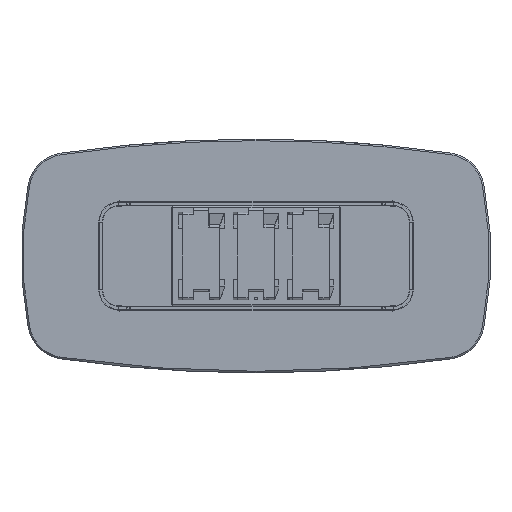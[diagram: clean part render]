
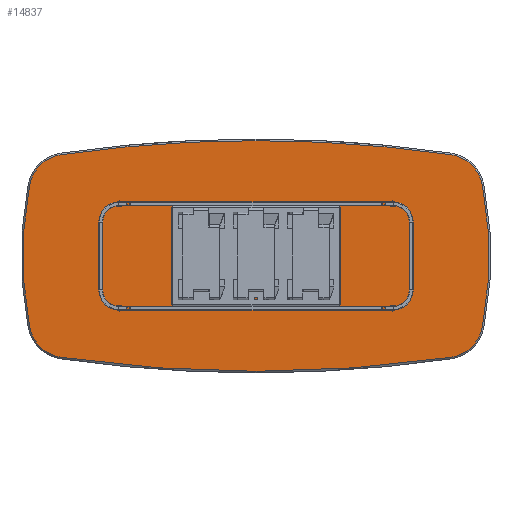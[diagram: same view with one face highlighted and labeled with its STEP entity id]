
A CAD part, front view. The second image highlights one B-rep face of the part: STEP entity #14837.
In plain terms, the highlighted planar face has unit normal (0, -1, 0).
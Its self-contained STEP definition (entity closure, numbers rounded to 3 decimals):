
#258 = DIRECTION ( 'NONE',  ( 0., 0., 1. ) ) ;
#646 = DIRECTION ( 'NONE',  ( 0., -1., 0. ) ) ;
#670 = ORIENTED_EDGE ( 'NONE', *, *, #3406, .T. ) ;
#852 = EDGE_CURVE ( 'NONE', #15227, #7037, #16452, .T. ) ;
#1535 = ORIENTED_EDGE ( 'NONE', *, *, #4718, .T. ) ;
#2172 = ORIENTED_EDGE ( 'NONE', *, *, #6445, .T. ) ;
#2653 = VERTEX_POINT ( 'NONE', #8960 ) ;
#3025 = CIRCLE ( 'NONE', #10614, 192. ) ;
#3292 = DIRECTION ( 'NONE',  ( 0., -1., 0. ) ) ;
#3363 = CARTESIAN_POINT ( 'NONE',  ( -1151.911, 0., 362.691 ) ) ;
#3406 = EDGE_CURVE ( 'NONE', #10563, #15227, #8538, .T. ) ;
#3511 = CARTESIAN_POINT ( 'NONE',  ( 990.878, 0., -515.919 ) ) ;
#3576 = DIRECTION ( 'NONE',  ( 0., 0., 1. ) ) ;
#3732 = VERTEX_POINT ( 'NONE', #3511 ) ;
#3764 = ORIENTED_EDGE ( 'NONE', *, *, #8789, .T. ) ;
#3807 = DIRECTION ( 'NONE',  ( 0., 0., 1. ) ) ;
#3987 = DIRECTION ( 'NONE',  ( 0., -1., 0. ) ) ;
#4063 = DIRECTION ( 'NONE',  ( 0., -1., 0. ) ) ;
#4412 = EDGE_CURVE ( 'NONE', #2653, #17202, #3025, .T. ) ;
#4714 = EDGE_LOOP ( 'NONE', ( #16150, #17699, #17284, #2172, #7404, #3764, #14658, #1535, #670 ) ) ;
#4718 = EDGE_CURVE ( 'NONE', #7975, #10563, #8882, .T. ) ;
#5331 = DIRECTION ( 'NONE',  ( 0., 0., 1. ) ) ;
#5489 = CIRCLE ( 'NONE', #7827, 6942. ) ;
#5846 = DIRECTION ( 'NONE',  ( 0., -1., 0. ) ) ;
#5956 = CIRCLE ( 'NONE', #8007, 1892. ) ;
#6017 = CIRCLE ( 'NONE', #9826, 6942. ) ;
#6361 = CARTESIAN_POINT ( 'NONE',  ( 1151.911, 0., -362.691 ) ) ;
#6445 = EDGE_CURVE ( 'NONE', #7568, #2653, #5956, .T. ) ;
#6535 = AXIS2_PLACEMENT_3D ( 'NONE', #8474, #14029, #12219 ) ;
#7037 = VERTEX_POINT ( 'NONE', #7389 ) ;
#7282 = CARTESIAN_POINT ( 'NONE',  ( 963.472, 0., 325.885 ) ) ;
#7389 = CARTESIAN_POINT ( 'NONE',  ( -990.878, 0., -515.919 ) ) ;
#7404 = ORIENTED_EDGE ( 'NONE', *, *, #4412, .T. ) ;
#7568 = VERTEX_POINT ( 'NONE', #6361 ) ;
#7630 = DIRECTION ( 'NONE',  ( 0., 0., 1. ) ) ;
#7827 = AXIS2_PLACEMENT_3D ( 'NONE', #10330, #646, #8875 ) ;
#7877 = CARTESIAN_POINT ( 'NONE',  ( -963.472, 0., -325.885 ) ) ;
#7975 = VERTEX_POINT ( 'NONE', #8646 ) ;
#8007 = AXIS2_PLACEMENT_3D ( 'NONE', #16655, #4063, #5331 ) ;
#8120 = EDGE_CURVE ( 'NONE', #3732, #7568, #10101, .T. ) ;
#8474 = CARTESIAN_POINT ( 'NONE',  ( -352.5, 0., 3177.5 ) ) ;
#8538 = CIRCLE ( 'NONE', #12324, 1892. ) ;
#8646 = CARTESIAN_POINT ( 'NONE',  ( -990.878, 0., 515.919 ) ) ;
#8749 = EDGE_CURVE ( 'NONE', #10441, #7975, #6017, .T. ) ;
#8789 = EDGE_CURVE ( 'NONE', #17202, #10441, #14484, .T. ) ;
#8867 = AXIS2_PLACEMENT_3D ( 'NONE', #7877, #16011, #3576 ) ;
#8875 = DIRECTION ( 'NONE',  ( 0., 0., 1. ) ) ;
#8882 = CIRCLE ( 'NONE', #17621, 192. ) ;
#8960 = CARTESIAN_POINT ( 'NONE',  ( 1151.911, 0., 362.691 ) ) ;
#9307 = CARTESIAN_POINT ( 'NONE',  ( 0., 0., -6355. ) ) ;
#9773 = CARTESIAN_POINT ( 'NONE',  ( 0., 0., 587. ) ) ;
#9826 = AXIS2_PLACEMENT_3D ( 'NONE', #12790, #5846, #10057 ) ;
#9842 = PLANE ( 'NONE',  #6535 ) ;
#10057 = DIRECTION ( 'NONE',  ( 0., 0., 1. ) ) ;
#10101 = CIRCLE ( 'NONE', #12431, 192. ) ;
#10121 = DIRECTION ( 'NONE',  ( 0., -1., 0. ) ) ;
#10128 = EDGE_CURVE ( 'NONE', #7037, #3732, #5489, .T. ) ;
#10330 = CARTESIAN_POINT ( 'NONE',  ( 0., 0., 6355. ) ) ;
#10441 = VERTEX_POINT ( 'NONE', #9773 ) ;
#10563 = VERTEX_POINT ( 'NONE', #3363 ) ;
#10614 = AXIS2_PLACEMENT_3D ( 'NONE', #7282, #10121, #258 ) ;
#12017 = CARTESIAN_POINT ( 'NONE',  ( 990.878, 0., 515.919 ) ) ;
#12219 = DIRECTION ( 'NONE',  ( 0., 0., 1. ) ) ;
#12324 = AXIS2_PLACEMENT_3D ( 'NONE', #13011, #12913, #14372 ) ;
#12431 = AXIS2_PLACEMENT_3D ( 'NONE', #17302, #15756, #7630 ) ;
#12553 = CARTESIAN_POINT ( 'NONE',  ( -1151.911, 0., -362.691 ) ) ;
#12790 = CARTESIAN_POINT ( 'NONE',  ( 0., 0., -6355. ) ) ;
#12913 = DIRECTION ( 'NONE',  ( 0., -1., 0. ) ) ;
#13011 = CARTESIAN_POINT ( 'NONE',  ( 705., 0., 0. ) ) ;
#13951 = FACE_OUTER_BOUND ( 'NONE', #4714, .T. ) ;
#14029 = DIRECTION ( 'NONE',  ( 0., 1., 0. ) ) ;
#14372 = DIRECTION ( 'NONE',  ( 0., 0., 1. ) ) ;
#14484 = CIRCLE ( 'NONE', #15652, 6942. ) ;
#14658 = ORIENTED_EDGE ( 'NONE', *, *, #8749, .T. ) ;
#14771 = DIRECTION ( 'NONE',  ( 0., 0., 1. ) ) ;
#14837 = ADVANCED_FACE ( 'NONE', ( #13951 ), #9842, .F. ) ;
#15039 = CARTESIAN_POINT ( 'NONE',  ( -963.472, 0., 325.885 ) ) ;
#15227 = VERTEX_POINT ( 'NONE', #12553 ) ;
#15652 = AXIS2_PLACEMENT_3D ( 'NONE', #9307, #3292, #14771 ) ;
#15756 = DIRECTION ( 'NONE',  ( 0., -1., 0. ) ) ;
#16011 = DIRECTION ( 'NONE',  ( 0., -1., 0. ) ) ;
#16150 = ORIENTED_EDGE ( 'NONE', *, *, #852, .T. ) ;
#16452 = CIRCLE ( 'NONE', #8867, 192. ) ;
#16655 = CARTESIAN_POINT ( 'NONE',  ( -705., 0., 0. ) ) ;
#17202 = VERTEX_POINT ( 'NONE', #12017 ) ;
#17284 = ORIENTED_EDGE ( 'NONE', *, *, #8120, .T. ) ;
#17302 = CARTESIAN_POINT ( 'NONE',  ( 963.472, 0., -325.885 ) ) ;
#17621 = AXIS2_PLACEMENT_3D ( 'NONE', #15039, #3987, #3807 ) ;
#17699 = ORIENTED_EDGE ( 'NONE', *, *, #10128, .T. ) ;
